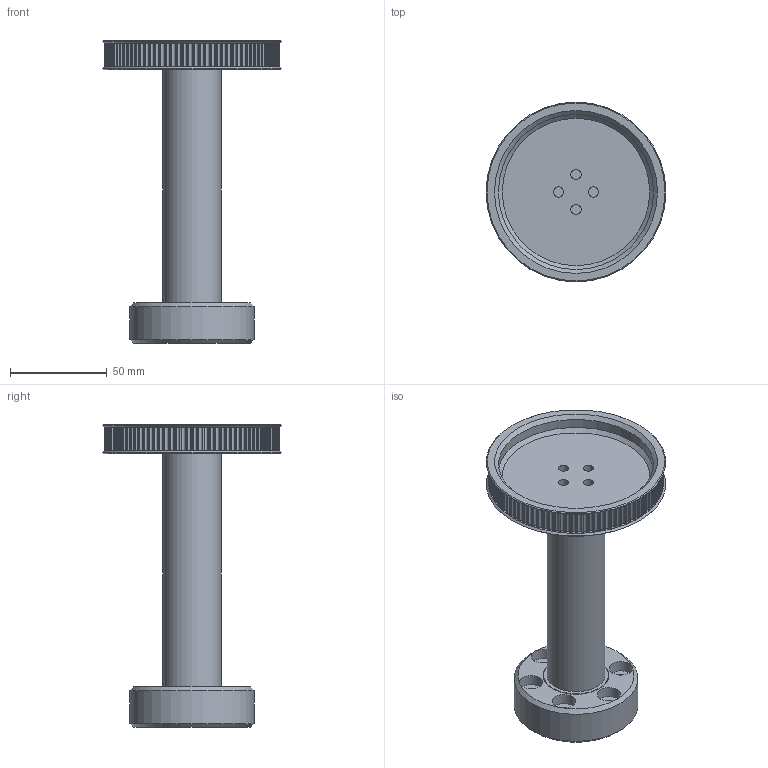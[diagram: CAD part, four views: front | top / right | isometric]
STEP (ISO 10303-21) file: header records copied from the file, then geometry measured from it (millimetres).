
FILE_DESCRIPTION(/* description */ (''),/* implementation_level */ '2;1');
FILE_NAME(/* name */ 'Elbow-j3 axis arm.step',/* time_stamp */ '2026-06-03T23:48:39+01:00',/* author */ (''),/* organization */ (''),/* preprocessor_version */ 'ST-DEVELOPER v20.1',/* originating_system */ 'Autodesk Translation Framework v15.8.0.0',/* authorisation */ '');
FILE_SCHEMA (('AUTOMOTIVE_DESIGN { 1 0 10303 214 3 1 1 }'));
Length unit declared in the file: millimetre
Products named in the file (3): Elbow-j3 axis arm; 95 tooth pulley v2; HTD3.0 Pulley 95_T 11.0mm_Belt
Assembly tree (2 placements, depth 3):
  Elbow-j3 axis arm
    95 tooth pulley v2
      HTD3.0 Pulley 95_T 11.0mm_Belt
Bounding box: 92.72 x 92.72 x 156.2 mm (x, y, z)
Volume: 186319.6 mm3; surface area: 50971.1 mm2
Topology: 2 solids, 2 shells, 443 faces, 1260 edges, 836 vertices
Faces by surface type: cylinder 409, plane 25, cone 8, torus 1
Full cylindrical faces by diameter (mm): 5.3 x10, 6.3 x8, 12 x6, 30 x2, 34 x1, 64 x1, 80 x1
Entity records: 15042 total; most frequent: DIRECTION 2999, CARTESIAN_POINT 2544, ORIENTED_EDGE 2520, AXIS2_PLACEMENT_3D 1291, EDGE_CURVE 1260, CIRCLE 843, VERTEX_POINT 836, EDGE_LOOP 478
